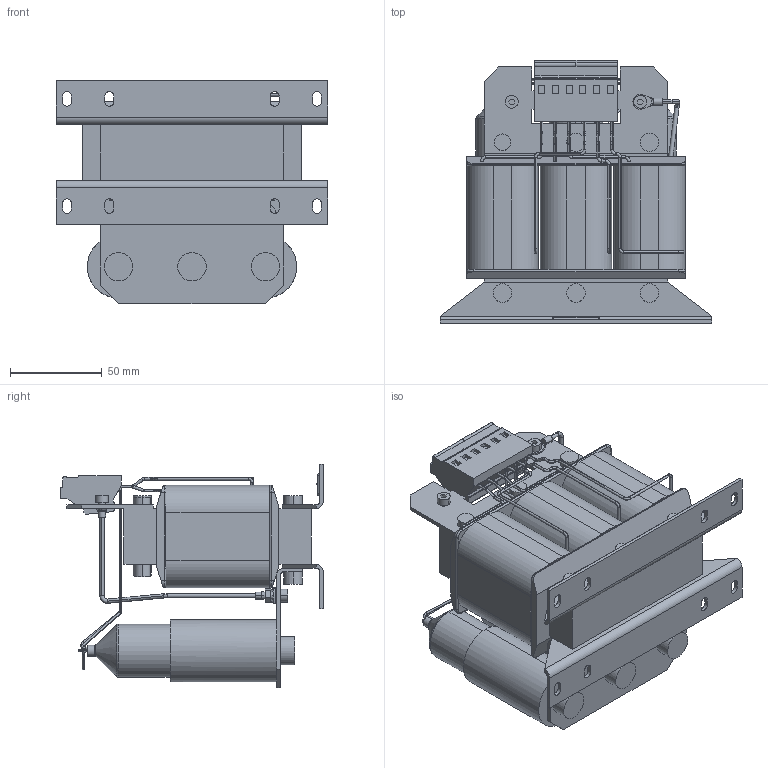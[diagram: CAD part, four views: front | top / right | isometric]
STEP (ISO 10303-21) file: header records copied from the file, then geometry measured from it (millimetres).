
FILE_DESCRIPTION (( 'STEP AP214' ), '1' );
FILE_NAME ('00Z1GX4-0110.STEP', '2023-03-21T12:50:02', ( '' ), ( '' ), 'SwSTEP 2.0', 'SolidWorks 2022', '' );
FILE_SCHEMA (( 'AUTOMOTIVE_DESIGN' ));
Length unit declared in the file: millimetre
Products named in the file (1): 00Z1GX4-0110
Bounding box: 148 x 143.1 x 121.4 mm (x, y, z)
Volume: 808706.1 mm3; surface area: 133534.6 mm2
Topology: 1 solids, 2 shells, 709 faces, 1830 edges, 1162 vertices
Faces by surface type: plane 281, cylinder 273, torus 116, bspline 33, cone 6
Entity records: 24193 total; most frequent: CARTESIAN_POINT 6453, DIRECTION 3731, ORIENTED_EDGE 3660, EDGE_CURVE 1830, AXIS2_PLACEMENT_3D 1445, VERTEX_POINT 1162, LINE 841, VECTOR 841
